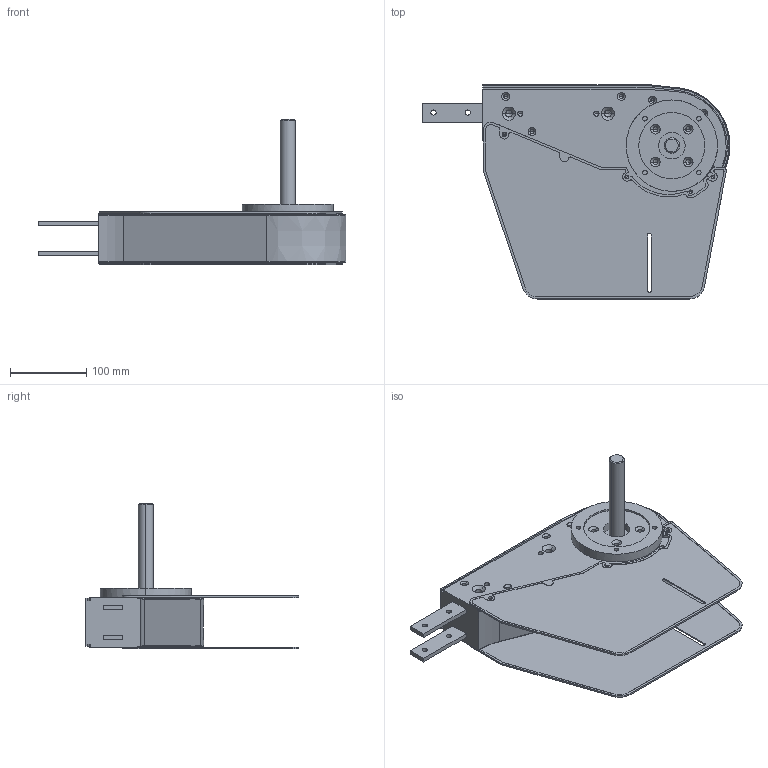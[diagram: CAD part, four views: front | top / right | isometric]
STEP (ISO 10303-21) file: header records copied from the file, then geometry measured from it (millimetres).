
FILE_DESCRIPTION (( 'STEP AP214' ), '1' );
FILE_NAME ('FSDD 65 0R.step', '2017-04-07T11:09:25', ( '' ), ( '' ), 'SwSTEP 2.0', 'SolidWorks 2016', '' );
FILE_SCHEMA (( 'AUTOMOTIVE_DESIGN' ));
Length unit declared in the file: millimetre
Products named in the file (1): FSDD 65 0R
Bounding box: 404.35 x 281.08 x 191.3 mm (x, y, z)
Volume: 2726951.1 mm3; surface area: 370306.3 mm2
Topology: 2 solids, 2 shells, 629 faces, 1683 edges, 1029 vertices
Faces by surface type: cylinder 305, plane 171, cone 140, bspline 9, torus 4
Entity records: 23016 total; most frequent: CARTESIAN_POINT 4269, DIRECTION 3522, ORIENTED_EDGE 3214, EDGE_CURVE 1607, AXIS2_PLACEMENT_3D 1332, VERTEX_POINT 1029, LINE 858, VECTOR 858
